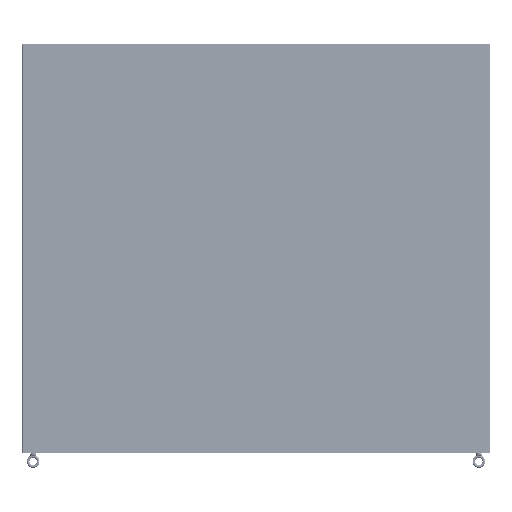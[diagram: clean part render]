
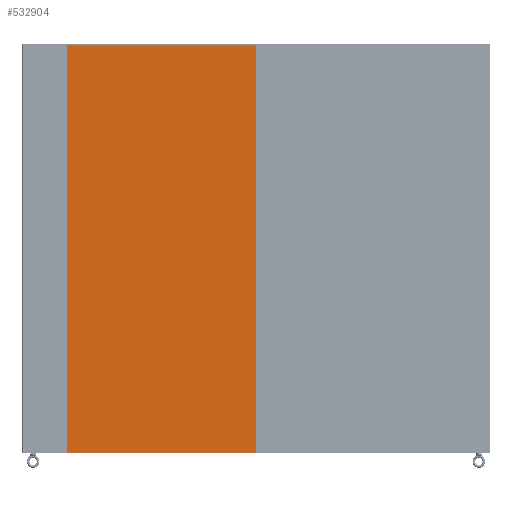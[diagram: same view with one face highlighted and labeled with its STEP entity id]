
A CAD part, left-side view. The second image highlights one B-rep face of the part: STEP entity #532904.
In plain terms, the highlighted planar face has unit normal (-1, 0, 0) as drawn and (0, 0, -1) by its records, which use the part's own axes.
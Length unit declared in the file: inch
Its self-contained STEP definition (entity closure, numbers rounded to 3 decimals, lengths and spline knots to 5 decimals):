
#532466=CARTESIAN_POINT('',(-15.6475,33.856,-0.104));
#532467=DIRECTION('',(0.,0.,-1.));
#532468=DIRECTION('',(-1.,0.,0.));
#532469=AXIS2_PLACEMENT_3D('',#532466,#532467,#532468);
#532474=DIRECTION('',(0.,-1.,0.));
#532475=VECTOR('',#532474,67.712);
#532476=CARTESIAN_POINT('',(-15.6875,33.856,-0.104));
#532477=LINE('',#532476,#532475);
#532481=CARTESIAN_POINT('',(-15.6475,-33.856,-0.104));
#532482=DIRECTION('',(0.,0.,-1.));
#532483=DIRECTION('',(0.,-1.,0.));
#532484=AXIS2_PLACEMENT_3D('',#532481,#532482,#532483);
#532489=DIRECTION('',(1.,0.,0.));
#532490=VECTOR('',#532489,31.295);
#532491=CARTESIAN_POINT('',(-15.6475,-33.896,-0.104));
#532492=LINE('',#532491,#532490);
#532496=CARTESIAN_POINT('',(15.6475,-33.856,-0.104));
#532497=DIRECTION('',(0.,0.,-1.));
#532498=DIRECTION('',(1.,0.,0.));
#532499=AXIS2_PLACEMENT_3D('',#532496,#532497,#532498);
#532504=DIRECTION('',(0.,1.,0.));
#532505=VECTOR('',#532504,67.712);
#532506=CARTESIAN_POINT('',(15.6875,-33.856,-0.104));
#532507=LINE('',#532506,#532505);
#532511=CARTESIAN_POINT('',(15.6475,33.856,-0.104));
#532512=DIRECTION('',(0.,0.,-1.));
#532513=DIRECTION('',(0.,1.,0.));
#532514=AXIS2_PLACEMENT_3D('',#532511,#532512,#532513);
#532519=DIRECTION('',(-1.,0.,0.));
#532520=VECTOR('',#532519,31.295);
#532521=CARTESIAN_POINT('',(15.6475,33.896,-0.104));
#532522=LINE('',#532521,#532520);
#532620=CARTESIAN_POINT('',(-15.6875,33.856,-0.104));
#532621=VERTEX_POINT('',#532620);
#532622=CARTESIAN_POINT('',(-15.6475,33.896,-0.104));
#532623=VERTEX_POINT('',#532622);
#532628=CARTESIAN_POINT('',(-15.6475,-33.896,-0.104));
#532629=VERTEX_POINT('',#532628);
#532630=CARTESIAN_POINT('',(-15.6875,-33.856,-0.104));
#532631=VERTEX_POINT('',#532630);
#532636=CARTESIAN_POINT('',(15.6475,33.896,-0.104));
#532637=VERTEX_POINT('',#532636);
#532638=CARTESIAN_POINT('',(15.6475,-33.896,-0.104));
#532639=VERTEX_POINT('',#532638);
#532642=CARTESIAN_POINT('',(15.6875,33.856,-0.104));
#532643=VERTEX_POINT('',#532642);
#532646=CARTESIAN_POINT('',(15.6875,-33.856,-0.104));
#532647=VERTEX_POINT('',#532646);
#532889=CARTESIAN_POINT('',(0.,0.,-0.104));
#532890=DIRECTION('',(0.,0.,1.));
#532891=DIRECTION('',(1.,0.,0.));
#532892=AXIS2_PLACEMENT_3D('',#532889,#532890,#532891);
#532893=PLANE('',#532892);
#532894=ORIENTED_EDGE('',*,*,#532729,.F.);
#532895=ORIENTED_EDGE('',*,*,#532752,.T.);
#532896=ORIENTED_EDGE('',*,*,#532772,.F.);
#532897=ORIENTED_EDGE('',*,*,#532794,.T.);
#532898=ORIENTED_EDGE('',*,*,#532814,.F.);
#532899=ORIENTED_EDGE('',*,*,#532834,.T.);
#532900=ORIENTED_EDGE('',*,*,#532856,.F.);
#532901=ORIENTED_EDGE('',*,*,#532875,.T.);
#532902=EDGE_LOOP('',(#532894,#532895,#532896,#532897,#532898,#532899,#532900,
#532901));
#532903=FACE_OUTER_BOUND('',#532902,.F.);
#532470=CIRCLE('',#532469,0.04);
#532485=CIRCLE('',#532484,0.04);
#532500=CIRCLE('',#532499,0.04);
#532515=CIRCLE('',#532514,0.04);
#532729=EDGE_CURVE('',#532621,#532623,#532470,.T.);
#532752=EDGE_CURVE('',#532621,#532631,#532477,.T.);
#532772=EDGE_CURVE('',#532629,#532631,#532485,.T.);
#532794=EDGE_CURVE('',#532629,#532639,#532492,.T.);
#532814=EDGE_CURVE('',#532647,#532639,#532500,.T.);
#532834=EDGE_CURVE('',#532647,#532643,#532507,.T.);
#532856=EDGE_CURVE('',#532637,#532643,#532515,.T.);
#532875=EDGE_CURVE('',#532637,#532623,#532522,.T.);
#532904=ADVANCED_FACE('',(#532903),#532893,.F.);
